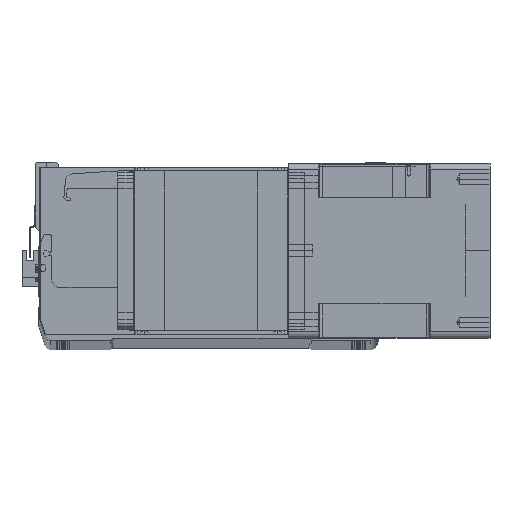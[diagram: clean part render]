
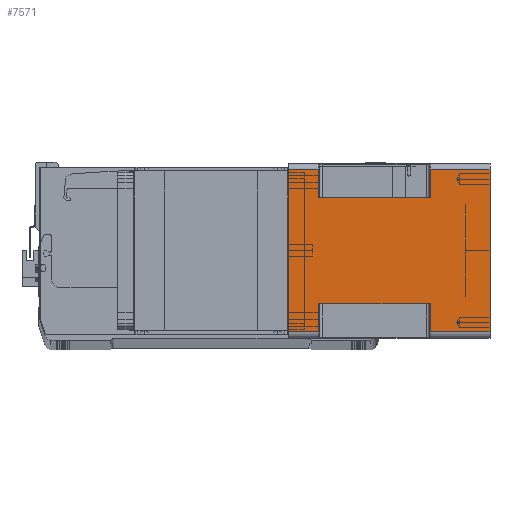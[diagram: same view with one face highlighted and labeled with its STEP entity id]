
A CAD part, top view. The second image highlights one B-rep face of the part: STEP entity #7571.
In plain terms, the highlighted planar face has unit normal (0, 0, 1) as drawn and (1, 0, 0) by its records, which use the part's own axes.
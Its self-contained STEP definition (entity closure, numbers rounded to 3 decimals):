
#90 = CARTESIAN_POINT ( 'NONE',  ( 71., 43., -115.5 ) ) ;
#121 = CARTESIAN_POINT ( 'NONE',  ( 71., -66., -24.5 ) ) ;
#158 = CARTESIAN_POINT ( 'NONE',  ( 71., 66., -24.5 ) ) ;
#215 = VECTOR ( 'NONE', #7971, 1000. ) ;
#594 = EDGE_CURVE ( 'NONE', #24111, #3970, #8433, .T. ) ;
#639 = VERTEX_POINT ( 'NONE', #16341 ) ;
#1081 = ORIENTED_EDGE ( 'NONE', *, *, #35936, .F. ) ;
#1423 = CARTESIAN_POINT ( 'NONE',  ( 71., -66., -115.5 ) ) ;
#1616 = LINE ( 'NONE', #36041, #18822 ) ;
#1987 = CARTESIAN_POINT ( 'NONE',  ( 71., -66., -164. ) ) ;
#2375 = DIRECTION ( 'NONE',  ( 0., 0., 1. ) ) ;
#2552 = LINE ( 'NONE', #32051, #5786 ) ;
#2780 = CARTESIAN_POINT ( 'NONE',  ( 71., 66., -164. ) ) ;
#2890 = CARTESIAN_POINT ( 'NONE',  ( 71., 66., -164. ) ) ;
#3970 = VERTEX_POINT ( 'NONE', #2890 ) ;
#4474 = VECTOR ( 'NONE', #10735, 1000. ) ;
#4750 = CARTESIAN_POINT ( 'NONE',  ( 71., -43., -24.5 ) ) ;
#5073 = DIRECTION ( 'NONE',  ( 1., 0., 0. ) ) ;
#5151 = ORIENTED_EDGE ( 'NONE', *, *, #14990, .F. ) ;
#5245 = LINE ( 'NONE', #33175, #26186 ) ;
#5577 = VECTOR ( 'NONE', #37062, 1000. ) ;
#5786 = VECTOR ( 'NONE', #2375, 1000. ) ;
#6375 = DIRECTION ( 'NONE',  ( 0., 0., -1. ) ) ;
#6732 = EDGE_CURVE ( 'NONE', #3970, #12442, #7783, .T. ) ;
#7571 = ADVANCED_FACE ( 'NONE', ( #13810 ), #37610, .T. ) ;
#7783 = LINE ( 'NONE', #2780, #19894 ) ;
#7883 = ORIENTED_EDGE ( 'NONE', *, *, #36637, .T. ) ;
#7971 = DIRECTION ( 'NONE',  ( 0., 0., 1. ) ) ;
#8433 = LINE ( 'NONE', #36054, #30283 ) ;
#9612 = ORIENTED_EDGE ( 'NONE', *, *, #17297, .T. ) ;
#9933 = LINE ( 'NONE', #31956, #23509 ) ;
#10440 = LINE ( 'NONE', #1987, #215 ) ;
#10735 = DIRECTION ( 'NONE',  ( 0., 1., 0. ) ) ;
#11317 = ORIENTED_EDGE ( 'NONE', *, *, #34541, .F. ) ;
#12213 = DIRECTION ( 'NONE',  ( 0., 1., 0. ) ) ;
#12305 = VERTEX_POINT ( 'NONE', #34625 ) ;
#12442 = VERTEX_POINT ( 'NONE', #17388 ) ;
#12614 = DIRECTION ( 'NONE',  ( 0., 1., 0. ) ) ;
#12840 = LINE ( 'NONE', #4750, #4474 ) ;
#13099 = CARTESIAN_POINT ( 'NONE',  ( 71., -43., -115.5 ) ) ;
#13494 = ORIENTED_EDGE ( 'NONE', *, *, #14372, .T. ) ;
#13810 = FACE_OUTER_BOUND ( 'NONE', #31610, .T. ) ;
#13836 = ORIENTED_EDGE ( 'NONE', *, *, #6732, .T. ) ;
#14372 = EDGE_CURVE ( 'NONE', #639, #15918, #12840, .T. ) ;
#14596 = VERTEX_POINT ( 'NONE', #20543 ) ;
#14990 = EDGE_CURVE ( 'NONE', #639, #32052, #10440, .T. ) ;
#14998 = EDGE_CURVE ( 'NONE', #24111, #12305, #2552, .T. ) ;
#15911 = LINE ( 'NONE', #121, #19166 ) ;
#15918 = VERTEX_POINT ( 'NONE', #25698 ) ;
#16341 = CARTESIAN_POINT ( 'NONE',  ( 71., -66., -24.5 ) ) ;
#17078 = DIRECTION ( 'NONE',  ( 0., 1., 0. ) ) ;
#17263 = LINE ( 'NONE', #1423, #5577 ) ;
#17297 = EDGE_CURVE ( 'NONE', #38283, #29852, #18554, .T. ) ;
#17388 = CARTESIAN_POINT ( 'NONE',  ( 71., 66., -115.5 ) ) ;
#17476 = VERTEX_POINT ( 'NONE', #90 ) ;
#17857 = DIRECTION ( 'NONE',  ( 0., 0., 1. ) ) ;
#18554 = LINE ( 'NONE', #28183, #35764 ) ;
#18769 = DIRECTION ( 'NONE',  ( 0., 1., 0. ) ) ;
#18822 = VECTOR ( 'NONE', #6375, 1000. ) ;
#19166 = VECTOR ( 'NONE', #12213, 1000. ) ;
#19723 = DIRECTION ( 'NONE',  ( 0., -1., 0. ) ) ;
#19797 = ORIENTED_EDGE ( 'NONE', *, *, #14998, .F. ) ;
#19894 = VECTOR ( 'NONE', #23491, 1000. ) ;
#20233 = CARTESIAN_POINT ( 'NONE',  ( 71., -66., -164. ) ) ;
#20543 = CARTESIAN_POINT ( 'NONE',  ( 71., 43., -24.5 ) ) ;
#20557 = ORIENTED_EDGE ( 'NONE', *, *, #594, .T. ) ;
#21121 = AXIS2_PLACEMENT_3D ( 'NONE', #35008, #5073, #17078 ) ;
#22097 = EDGE_CURVE ( 'NONE', #32052, #29852, #36216, .T. ) ;
#23209 = CARTESIAN_POINT ( 'NONE',  ( 71., 66., 0. ) ) ;
#23491 = DIRECTION ( 'NONE',  ( 0., 0., 1. ) ) ;
#23509 = VECTOR ( 'NONE', #19723, 1000. ) ;
#23968 = EDGE_CURVE ( 'NONE', #12442, #17476, #9933, .T. ) ;
#24111 = VERTEX_POINT ( 'NONE', #20233 ) ;
#25698 = CARTESIAN_POINT ( 'NONE',  ( 71., -43., -24.5 ) ) ;
#26186 = VECTOR ( 'NONE', #17857, 1000. ) ;
#28148 = ORIENTED_EDGE ( 'NONE', *, *, #23968, .T. ) ;
#28183 = CARTESIAN_POINT ( 'NONE',  ( 71., 66., -164. ) ) ;
#29852 = VERTEX_POINT ( 'NONE', #23209 ) ;
#30146 = VECTOR ( 'NONE', #18769, 1000. ) ;
#30283 = VECTOR ( 'NONE', #12614, 1000. ) ;
#30374 = EDGE_CURVE ( 'NONE', #14596, #38283, #15911, .T. ) ;
#30609 = ORIENTED_EDGE ( 'NONE', *, *, #30374, .T. ) ;
#30669 = VERTEX_POINT ( 'NONE', #13099 ) ;
#31610 = EDGE_LOOP ( 'NONE', ( #1081, #7883, #19797, #20557, #13836, #28148, #11317, #30609, #9612, #37659, #5151, #13494 ) ) ;
#31956 = CARTESIAN_POINT ( 'NONE',  ( 71., 43., -115.5 ) ) ;
#32051 = CARTESIAN_POINT ( 'NONE',  ( 71., -66., -164. ) ) ;
#32052 = VERTEX_POINT ( 'NONE', #36860 ) ;
#33175 = CARTESIAN_POINT ( 'NONE',  ( 71., -43., -164. ) ) ;
#34171 = DIRECTION ( 'NONE',  ( 0., 0., 1. ) ) ;
#34541 = EDGE_CURVE ( 'NONE', #14596, #17476, #1616, .T. ) ;
#34625 = CARTESIAN_POINT ( 'NONE',  ( 71., -66., -115.5 ) ) ;
#35008 = CARTESIAN_POINT ( 'NONE',  ( 71., -66., -164. ) ) ;
#35764 = VECTOR ( 'NONE', #34171, 1000. ) ;
#35936 = EDGE_CURVE ( 'NONE', #30669, #15918, #5245, .T. ) ;
#36041 = CARTESIAN_POINT ( 'NONE',  ( 71., 43., -164. ) ) ;
#36054 = CARTESIAN_POINT ( 'NONE',  ( 71., -66., -164. ) ) ;
#36216 = LINE ( 'NONE', #36596, #30146 ) ;
#36596 = CARTESIAN_POINT ( 'NONE',  ( 71., -66., 0. ) ) ;
#36637 = EDGE_CURVE ( 'NONE', #30669, #12305, #17263, .T. ) ;
#36860 = CARTESIAN_POINT ( 'NONE',  ( 71., -66., 0. ) ) ;
#37062 = DIRECTION ( 'NONE',  ( 0., -1., 0. ) ) ;
#37610 = PLANE ( 'NONE',  #21121 ) ;
#37659 = ORIENTED_EDGE ( 'NONE', *, *, #22097, .F. ) ;
#38283 = VERTEX_POINT ( 'NONE', #158 ) ;
